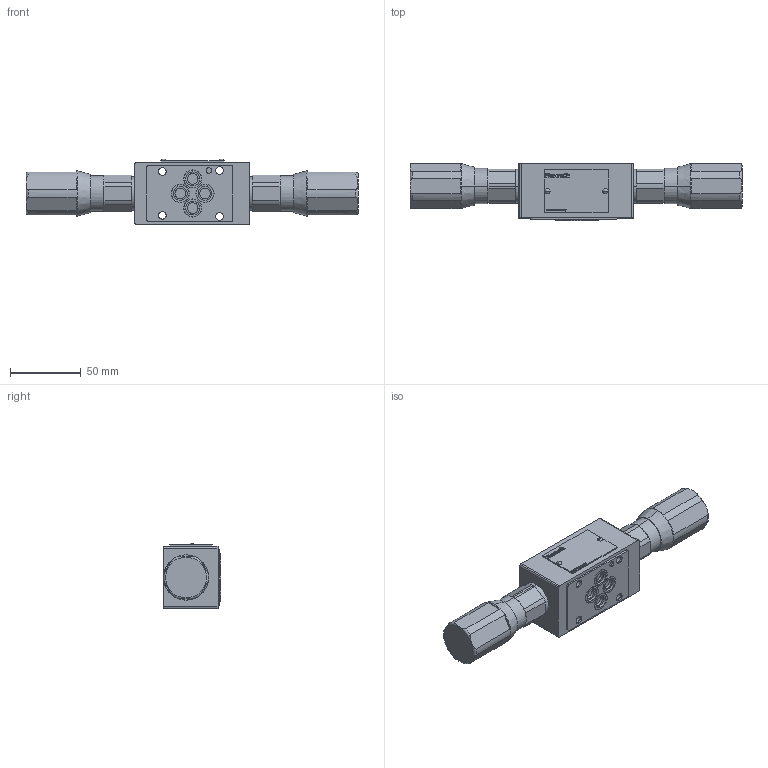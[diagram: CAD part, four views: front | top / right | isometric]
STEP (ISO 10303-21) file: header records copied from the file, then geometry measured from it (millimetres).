
FILE_DESCRIPTION (( 'STEP AP203' ), '1' );
FILE_NAME ('Z2FS_6-7-4X_2QV_V.STEP', '2020-06-10T10:04:31', ( '' ), ( '' ), 'SwSTEP 2.0', 'SolidWorks 2020', '' );
FILE_SCHEMA (( 'CONFIG_CONTROL_DESIGN' ));
Length unit declared in the file: millimetre
Products named in the file (1): Z2FS_6-7-4X_2QV_V
Bounding box: 235 x 40.39 x 46.59 mm (x, y, z)
Volume: 239662.2 mm3; surface area: 51099.4 mm2
Topology: 15 solids, 15 shells, 1048 faces, 2878 edges, 1908 vertices
Faces by surface type: plane 815, cylinder 128, bspline 77, torus 20, sphere 4, cone 4
Entity records: 34619 total; most frequent: CARTESIAN_POINT 8052, ORIENTED_EDGE 5756, DIRECTION 4994, EDGE_CURVE 2878, LINE 2366, VECTOR 2366, VERTEX_POINT 1908, AXIS2_PLACEMENT_3D 1314
